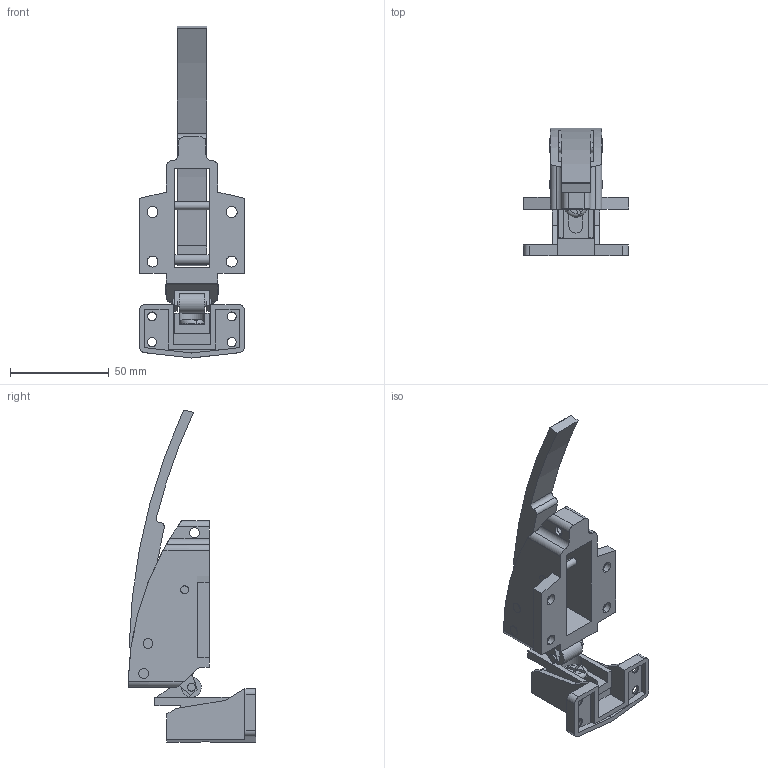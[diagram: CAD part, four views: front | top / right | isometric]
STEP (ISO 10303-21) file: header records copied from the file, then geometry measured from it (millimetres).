
FILE_DESCRIPTION (( 'STEP AP203' ), '1' );
FILE_NAME ('C01-1400L.STEP', '2024-11-08T07:42:18', ( '' ), ( '' ), 'SwSTEP 2.0', 'SolidWorks 2021', '' );
FILE_SCHEMA (( 'CONFIG_CONTROL_DESIGN' ));
Length unit declared in the file: millimetre
Products named in the file (6): C01-1400L-06-25; C01-1400L-2; C01-1400L-本體; C01-1400L; C01-1400L-扣座; C01-1400L-1
Assembly tree (5 placements, depth 3):
  C01-1400L
    C01-1400L-本體
    C01-1400L-扣座
      C01-1400L-1
      C01-1400L-2
      C01-1400L-06-25
Bounding box: 53.1 x 64.5 x 167.7 mm (x, y, z)
Volume: 54388.8 mm3; surface area: 49229.8 mm2
Topology: 4 solids, 4 shells, 289 faces, 795 edges, 520 vertices
Faces by surface type: plane 153, cylinder 110, cone 24, torus 2
Entity records: 10241 total; most frequent: CARTESIAN_POINT 2047, ORIENTED_EDGE 1590, DIRECTION 1583, EDGE_CURVE 795, AXIS2_PLACEMENT_3D 544, VERTEX_POINT 520, VECTOR 495, LINE 495
